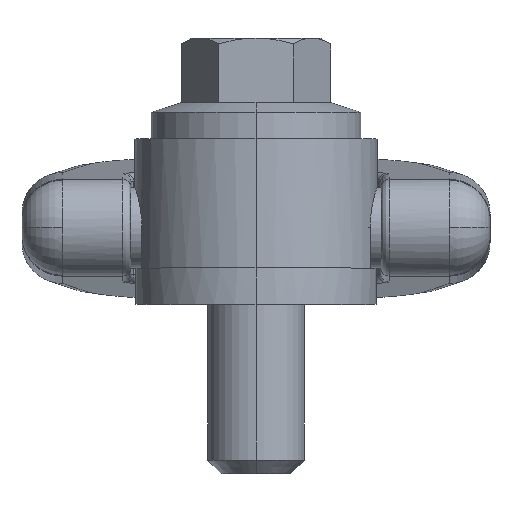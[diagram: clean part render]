
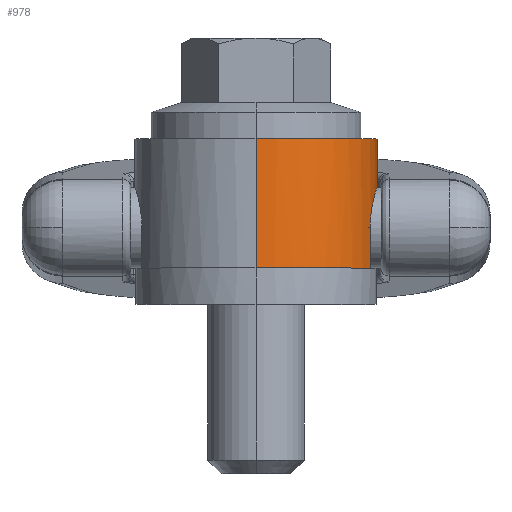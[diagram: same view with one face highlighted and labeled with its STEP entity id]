
A CAD part, top view. The second image highlights one B-rep face of the part: STEP entity #978.
In plain terms, the highlighted cylindrical face has radius 15 mm (diameter 30 mm), a partial arc.
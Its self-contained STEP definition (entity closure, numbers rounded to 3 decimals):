
#774 = VERTEX_POINT ( 'NONE', #2746 ) ;
#776 = ORIENTED_EDGE ( 'NONE', *, *, #777, .T. ) ;
#777 = EDGE_CURVE ( 'NONE', #774, #927, #2803, .T. ) ;
#778 = EDGE_CURVE ( 'NONE', #774, #902, #2799, .T. ) ;
#788 = ORIENTED_EDGE ( 'NONE', *, *, #792, .F. ) ;
#792 = EDGE_CURVE ( 'NONE', #949, #984, #2777, .T. ) ;
#902 = VERTEX_POINT ( 'NONE', #3003 ) ;
#903 = ORIENTED_EDGE ( 'NONE', *, *, #778, .F. ) ;
#918 = ORIENTED_EDGE ( 'NONE', *, *, #1241, .T. ) ;
#926 = VERTEX_POINT ( 'NONE', #3037 ) ;
#927 = VERTEX_POINT ( 'NONE', #3036 ) ;
#944 = VERTEX_POINT ( 'NONE', #3069 ) ;
#947 = EDGE_CURVE ( 'NONE', #944, #902, #3064, .T. ) ;
#948 = ORIENTED_EDGE ( 'NONE', *, *, #947, .T. ) ;
#949 = VERTEX_POINT ( 'NONE', #3060 ) ;
#959 = ORIENTED_EDGE ( 'NONE', *, *, #964, .F. ) ;
#960 = EDGE_LOOP ( 'NONE', ( #959, #948, #903, #776, #1436, #918, #1113, #788 ) ) ;
#964 = EDGE_CURVE ( 'NONE', #944, #949, #3109, .T. ) ;
#978 = ADVANCED_FACE ( 'NONE', ( #3130 ), #3129, .T. ) ;
#984 = VERTEX_POINT ( 'NONE', #3169 ) ;
#1039 = EDGE_CURVE ( 'NONE', #984, #1051, #3287, .T. ) ;
#1051 = VERTEX_POINT ( 'NONE', #3315 ) ;
#1113 = ORIENTED_EDGE ( 'NONE', *, *, #1039, .F. ) ;
#1241 = EDGE_CURVE ( 'NONE', #926, #1051, #3681, .T. ) ;
#1435 = EDGE_CURVE ( 'NONE', #927, #926, #3751, .T. ) ;
#1436 = ORIENTED_EDGE ( 'NONE', *, *, #1435, .T. ) ;
#2746 = CARTESIAN_POINT ( 'NONE',  ( 14.142, 4.5, 5. ) ) ;
#2774 = DIRECTION ( 'NONE',  ( 0., -1., 0. ) ) ;
#2775 = VECTOR ( 'NONE', #2774, 1000. ) ;
#2776 = CARTESIAN_POINT ( 'NONE',  ( 0., 33., -15. ) ) ;
#2777 = LINE ( 'NONE', #2776, #2775 ) ;
#2795 = DIRECTION ( 'NONE',  ( 0., 0., -1. ) ) ;
#2796 = DIRECTION ( 'NONE',  ( 0., -1., 0. ) ) ;
#2797 = CARTESIAN_POINT ( 'NONE',  ( 0., 4.5, 0. ) ) ;
#2798 = AXIS2_PLACEMENT_3D ( 'NONE', #2797, #2796, #2795 ) ;
#2799 = CIRCLE ( 'NONE', #2798, 15. ) ;
#2800 = DIRECTION ( 'NONE',  ( 0., 1., 0. ) ) ;
#2801 = VECTOR ( 'NONE', #2800, 1000. ) ;
#2802 = CARTESIAN_POINT ( 'NONE',  ( 14.142, 33., 5. ) ) ;
#2803 = LINE ( 'NONE', #2802, #2801 ) ;
#3003 = CARTESIAN_POINT ( 'NONE',  ( 0., 4.5, 15. ) ) ;
#3036 = CARTESIAN_POINT ( 'NONE',  ( 14.142, 9.5, 5. ) ) ;
#3037 = CARTESIAN_POINT ( 'NONE',  ( 14.142, 9.5, -5. ) ) ;
#3060 = CARTESIAN_POINT ( 'NONE',  ( 0., 20.5, -15. ) ) ;
#3061 = DIRECTION ( 'NONE',  ( 0., -1., 0. ) ) ;
#3062 = VECTOR ( 'NONE', #3061, 1000. ) ;
#3063 = CARTESIAN_POINT ( 'NONE',  ( 0., 33., 15. ) ) ;
#3064 = LINE ( 'NONE', #3063, #3062 ) ;
#3069 = CARTESIAN_POINT ( 'NONE',  ( 0., 20.5, 15. ) ) ;
#3105 = DIRECTION ( 'NONE',  ( 0., 0., 1. ) ) ;
#3106 = DIRECTION ( 'NONE',  ( 0., 1., 0. ) ) ;
#3107 = CARTESIAN_POINT ( 'NONE',  ( 0., 20.5, 0. ) ) ;
#3108 = AXIS2_PLACEMENT_3D ( 'NONE', #3107, #3106, #3105 ) ;
#3109 = CIRCLE ( 'NONE', #3108, 15. ) ;
#3125 = DIRECTION ( 'NONE',  ( 0., 0., -1. ) ) ;
#3126 = DIRECTION ( 'NONE',  ( 0., -1., 0. ) ) ;
#3127 = CARTESIAN_POINT ( 'NONE',  ( 0., 33., 0. ) ) ;
#3128 = AXIS2_PLACEMENT_3D ( 'NONE', #3127, #3126, #3125 ) ;
#3129 = CYLINDRICAL_SURFACE ( 'NONE', #3128, 15. ) ;
#3130 = FACE_OUTER_BOUND ( 'NONE', #960, .T. ) ;
#3169 = CARTESIAN_POINT ( 'NONE',  ( 0., 4.5, -15. ) ) ;
#3281 = DIRECTION ( 'NONE',  ( 0., 0., -1. ) ) ;
#3282 = DIRECTION ( 'NONE',  ( 0., -1., 0. ) ) ;
#3283 = CARTESIAN_POINT ( 'NONE',  ( 0., 4.5, 0. ) ) ;
#3284 = AXIS2_PLACEMENT_3D ( 'NONE', #3283, #3282, #3281 ) ;
#3287 = CIRCLE ( 'NONE', #3284, 15. ) ;
#3315 = CARTESIAN_POINT ( 'NONE',  ( 14.142, 4.5, -5. ) ) ;
#3679 = DIRECTION ( 'NONE',  ( 0., -1., 0. ) ) ;
#3680 = CARTESIAN_POINT ( 'NONE',  ( 14.142, 33., -5. ) ) ;
#3681 = LINE ( 'NONE', #3680, #3722 ) ;
#3722 = VECTOR ( 'NONE', #3679, 1000. ) ;
#3730 = CARTESIAN_POINT ( 'NONE',  ( 14.989, 14.467, -0.657 ) ) ;
#3731 = CARTESIAN_POINT ( 'NONE',  ( 15., 14.5, -0.323 ) ) ;
#3732 = CARTESIAN_POINT ( 'NONE',  ( 15., 14.5, 0.334 ) ) ;
#3733 = CARTESIAN_POINT ( 'NONE',  ( 14.989, 14.467, 0.66 ) ) ;
#3734 = CARTESIAN_POINT ( 'NONE',  ( 14.957, 14.37, 1.145 ) ) ;
#3735 = CARTESIAN_POINT ( 'NONE',  ( 14.944, 14.329, 1.306 ) ) ;
#3736 = CARTESIAN_POINT ( 'NONE',  ( 14.913, 14.233, 1.621 ) ) ;
#3737 = CARTESIAN_POINT ( 'NONE',  ( 14.895, 14.177, 1.774 ) ) ;
#3738 = CARTESIAN_POINT ( 'NONE',  ( 14.837, 13.99, 2.225 ) ) ;
#3739 = CARTESIAN_POINT ( 'NONE',  ( 14.791, 13.836, 2.512 ) ) ;
#3740 = CARTESIAN_POINT ( 'NONE',  ( 14.688, 13.47, 3.057 ) ) ;
#3741 = CARTESIAN_POINT ( 'NONE',  ( 14.633, 13.264, 3.307 ) ) ;
#3742 = CARTESIAN_POINT ( 'NONE',  ( 14.522, 12.806, 3.765 ) ) ;
#3743 = CARTESIAN_POINT ( 'NONE',  ( 14.465, 12.552, 3.974 ) ) ;
#3744 = CARTESIAN_POINT ( 'NONE',  ( 14.361, 12.01, 4.336 ) ) ;
#3745 = CARTESIAN_POINT ( 'NONE',  ( 14.313, 11.724, 4.49 ) ) ;
#3746 = CARTESIAN_POINT ( 'NONE',  ( 14.232, 11.12, 4.741 ) ) ;
#3747 = CARTESIAN_POINT ( 'NONE',  ( 14.198, 10.802, 4.839 ) ) ;
#3748 = CARTESIAN_POINT ( 'NONE',  ( 14.154, 10.16, 4.967 ) ) ;
#3749 = CARTESIAN_POINT ( 'NONE',  ( 14.142, 9.833, 5. ) ) ;
#3750 = CARTESIAN_POINT ( 'NONE',  ( 14.142, 9.5, 5. ) ) ;
#3751 = B_SPLINE_CURVE_WITH_KNOTS ( 'NONE', 3,
 ( #3750, #3749, #3748, #3747, #3746, #3745, #3744, #3743, #3742, #3741, #3740, #3739, #3738, #3737, #3736, #3735, #3734, #3733, #3732, #3731, #3730, #3800, #3799, #3798, #3797, #3796, #3795, #3794, #3793, #3792, #3791, #3790, #3789, #3788, #3787, #3786 ),
 .UNSPECIFIED., .F., .F.,
 ( 4, 2, 2, 2, 2, 2, 2, 2, 2, 2, 2, 2, 2, 2, 2, 2, 2, 4 ),
 ( 0., 0.001, 0.002, 0.003, 0.004, 0.005, 0.006, 0.006, 0.007, 0.008, 0.009, 0.01, 0.011, 0.012, 0.013, 0.014, 0.015, 0.016 ),
 .UNSPECIFIED. ) ;
#3786 = CARTESIAN_POINT ( 'NONE',  ( 14.142, 9.5, -5. ) ) ;
#3787 = CARTESIAN_POINT ( 'NONE',  ( 14.142, 9.833, -5. ) ) ;
#3788 = CARTESIAN_POINT ( 'NONE',  ( 14.154, 10.165, -4.967 ) ) ;
#3789 = CARTESIAN_POINT ( 'NONE',  ( 14.199, 10.812, -4.836 ) ) ;
#3790 = CARTESIAN_POINT ( 'NONE',  ( 14.232, 11.124, -4.74 ) ) ;
#3791 = CARTESIAN_POINT ( 'NONE',  ( 14.313, 11.725, -4.489 ) ) ;
#3792 = CARTESIAN_POINT ( 'NONE',  ( 14.362, 12.017, -4.332 ) ) ;
#3793 = CARTESIAN_POINT ( 'NONE',  ( 14.466, 12.557, -3.97 ) ) ;
#3794 = CARTESIAN_POINT ( 'NONE',  ( 14.522, 12.806, -3.765 ) ) ;
#3795 = CARTESIAN_POINT ( 'NONE',  ( 14.633, 13.266, -3.305 ) ) ;
#3796 = CARTESIAN_POINT ( 'NONE',  ( 14.689, 13.475, -3.05 ) ) ;
#3797 = CARTESIAN_POINT ( 'NONE',  ( 14.791, 13.836, -2.511 ) ) ;
#3798 = CARTESIAN_POINT ( 'NONE',  ( 14.838, 13.991, -2.222 ) ) ;
#3799 = CARTESIAN_POINT ( 'NONE',  ( 14.916, 14.244, -1.614 ) ) ;
#3800 = CARTESIAN_POINT ( 'NONE',  ( 14.947, 14.339, -1.301 ) ) ;
